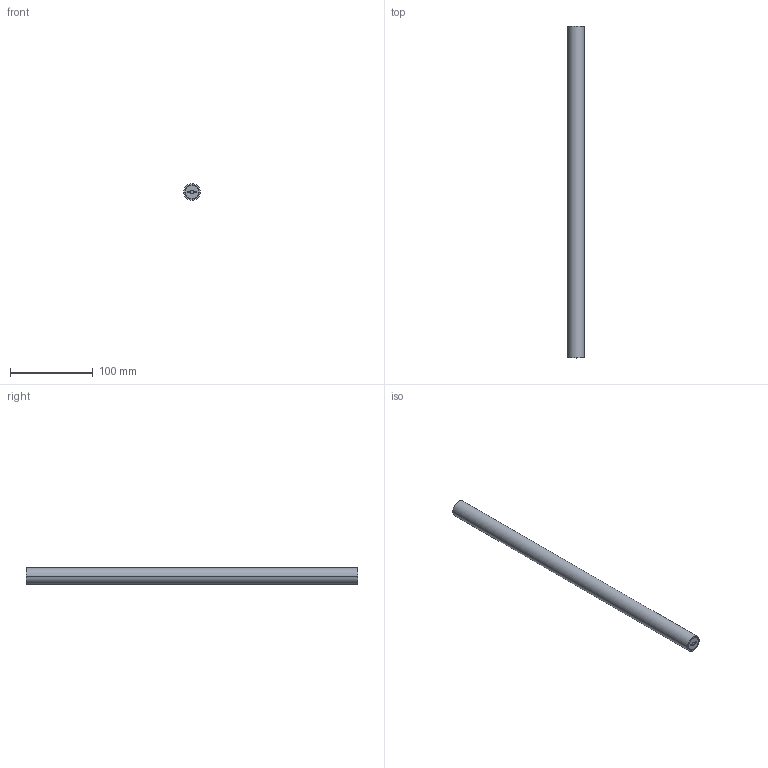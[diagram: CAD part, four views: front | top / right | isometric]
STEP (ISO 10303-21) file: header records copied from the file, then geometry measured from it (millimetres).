
FILE_DESCRIPTION((''),'2;1');
FILE_NAME('CORDINACILINDRO400','2025-05-13T11:29:02',('elena.baldelli'),(''),'CREO PARAMETRIC BY PTC INC, 2020354','CREO PARAMETRIC BY PTC INC, 2020354','');
FILE_SCHEMA(('CONFIG_CONTROL_DESIGN'));
Length unit declared in the file: millimetre
Products named in the file (1): CORDINACILINDRO400
Bounding box: 20 x 400 x 20 mm (x, y, z)
Surface area: 46869.9 mm2 (no closed solid volume)
Topology: 0 solids, 4 shells, 12 faces, 42 edges, 34 vertices
Faces by surface type: cylinder 8, plane 4
Entity records: 524 total; most frequent: DIRECTION 100, CARTESIAN_POINT 88, ORIENTED_EDGE 58, AXIS2_PLACEMENT_3D 46, EDGE_CURVE 42, VERTEX_POINT 34, CIRCLE 34, EDGE_LOOP 17
